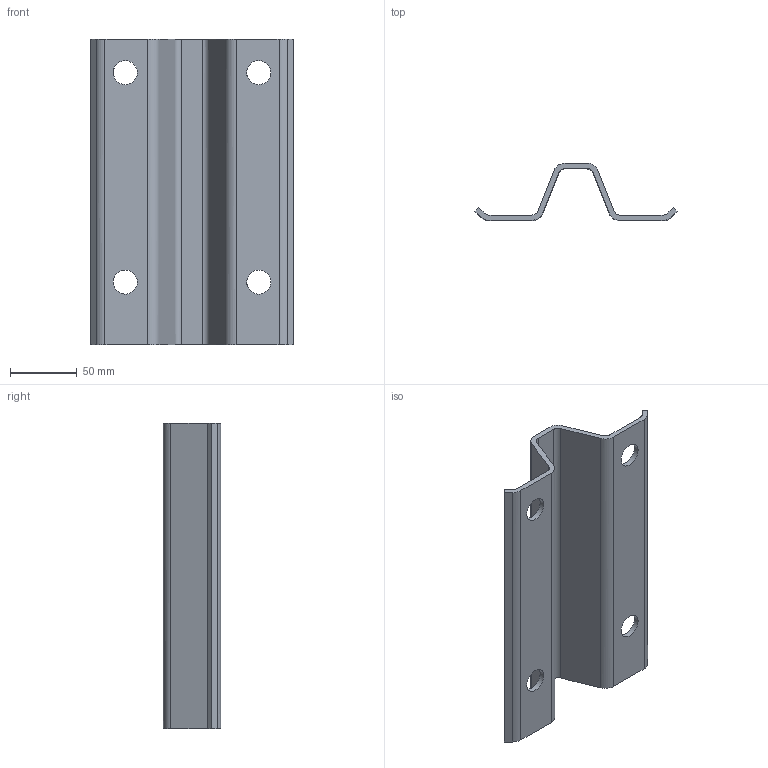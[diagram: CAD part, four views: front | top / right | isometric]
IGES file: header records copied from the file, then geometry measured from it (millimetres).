
Global section: file name: ZC240; native system: Autodesk RealDWG; preprocessor: Autodesk Translation Framework DWG producer (atf_dwg_producer); organization: unknown; date: 20230703.111600; units: centimetre
Bounding box: 151.72 x 43 x 229 mm (x, y, z)
Volume: 180794.4 mm3; surface area: 94752.6 mm2
Topology: 1 solids, 1 shells, 34 faces, 96 edges, 64 vertices
Faces by surface type: bspline 34
